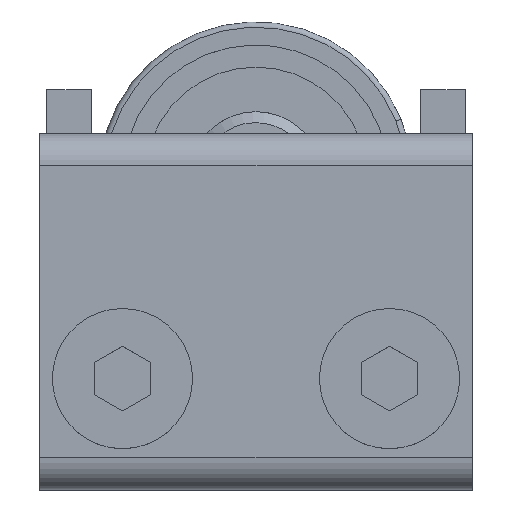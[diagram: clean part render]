
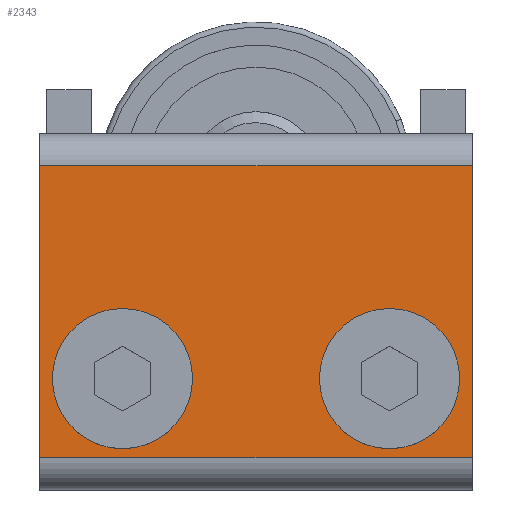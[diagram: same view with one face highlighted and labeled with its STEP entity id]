
A CAD part, top view. The second image highlights one B-rep face of the part: STEP entity #2343.
In plain terms, the highlighted planar face has unit normal (0, 0, 1) as drawn and (0, 0, -1) by its records, which use the part's own axes.
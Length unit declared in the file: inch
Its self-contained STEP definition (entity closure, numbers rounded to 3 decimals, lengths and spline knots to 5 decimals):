
#2036=DIRECTION('',(0.,-1.,0.));
#2037=VECTOR('',#2036,0.82);
#2038=CARTESIAN_POINT('',(-0.6075,0.41,-0.18));
#2039=LINE('',#2038,#2037);
#2062=DIRECTION('',(0.,-1.,0.));
#2063=VECTOR('',#2062,0.82);
#2064=CARTESIAN_POINT('',(0.6075,0.41,-0.18));
#2065=LINE('',#2064,#2063);
#2066=CARTESIAN_POINT('',(0.375,-0.188,-0.18));
#2067=DIRECTION('',(0.,0.,1.));
#2068=DIRECTION('',(1.,0.,0.));
#2069=AXIS2_PLACEMENT_3D('',#2066,#2067,#2068);
#2071=CARTESIAN_POINT('',(0.375,-0.188,-0.18));
#2072=DIRECTION('',(0.,0.,1.));
#2073=DIRECTION('',(-1.,0.,0.));
#2074=AXIS2_PLACEMENT_3D('',#2071,#2072,#2073);
#2076=CARTESIAN_POINT('',(-0.375,-0.188,-0.18));
#2077=DIRECTION('',(0.,0.,1.));
#2078=DIRECTION('',(1.,0.,0.));
#2079=AXIS2_PLACEMENT_3D('',#2076,#2077,#2078);
#2081=CARTESIAN_POINT('',(-0.375,-0.188,-0.18));
#2082=DIRECTION('',(0.,0.,1.));
#2083=DIRECTION('',(-1.,0.,0.));
#2084=AXIS2_PLACEMENT_3D('',#2081,#2082,#2083);
#2090=DIRECTION('',(-1.,0.,0.));
#2091=VECTOR('',#2090,1.215);
#2092=CARTESIAN_POINT('',(0.6075,0.41,-0.18));
#2093=LINE('',#2092,#2091);
#2098=DIRECTION('',(1.,0.,0.));
#2099=VECTOR('',#2098,1.215);
#2100=CARTESIAN_POINT('',(-0.6075,-0.41,-0.18));
#2101=LINE('',#2100,#2099);
#2178=CARTESIAN_POINT('',(0.6075,0.41,-0.18));
#2180=VERTEX_POINT('',#2178);
#2183=CARTESIAN_POINT('',(-0.5,-0.188,-0.18));
#2185=VERTEX_POINT('',#2183);
#2195=CARTESIAN_POINT('',(0.25,-0.188,-0.18));
#2197=VERTEX_POINT('',#2195);
#2202=CARTESIAN_POINT('',(-0.6075,0.41,-0.18));
#2203=VERTEX_POINT('',#2202);
#2214=CARTESIAN_POINT('',(0.6075,-0.41,-0.18));
#2215=VERTEX_POINT('',#2214);
#2220=CARTESIAN_POINT('',(-0.6075,-0.41,-0.18));
#2222=VERTEX_POINT('',#2220);
#2226=CARTESIAN_POINT('',(0.5,-0.188,-0.18));
#2227=VERTEX_POINT('',#2226);
#2230=CARTESIAN_POINT('',(-0.25,-0.188,-0.18));
#2231=VERTEX_POINT('',#2230);
#2318=CARTESIAN_POINT('',(0.6075,0.5,-0.18));
#2319=DIRECTION('',(0.,0.,1.));
#2320=DIRECTION('',(0.,-1.,0.));
#2321=AXIS2_PLACEMENT_3D('',#2318,#2319,#2320);
#2322=PLANE('',#2321);
#2323=ORIENTED_EDGE('',*,*,#2270,.F.);
#2325=ORIENTED_EDGE('',*,*,#2324,.T.);
#2326=ORIENTED_EDGE('',*,*,#2297,.T.);
#2328=ORIENTED_EDGE('',*,*,#2327,.T.);
#2329=EDGE_LOOP('',(#2323,#2325,#2326,#2328));
#2330=FACE_OUTER_BOUND('',#2329,.F.);
#2332=ORIENTED_EDGE('',*,*,#2331,.F.);
#2334=ORIENTED_EDGE('',*,*,#2333,.F.);
#2335=EDGE_LOOP('',(#2332,#2334));
#2336=FACE_BOUND('',#2335,.F.);
#2338=ORIENTED_EDGE('',*,*,#2337,.F.);
#2340=ORIENTED_EDGE('',*,*,#2339,.F.);
#2341=EDGE_LOOP('',(#2338,#2340));
#2342=FACE_BOUND('',#2341,.F.);
#2070=CIRCLE('',#2069,0.125);
#2075=CIRCLE('',#2074,0.125);
#2080=CIRCLE('',#2079,0.125);
#2085=CIRCLE('',#2084,0.125);
#2270=EDGE_CURVE('',#2180,#2215,#2065,.T.);
#2297=EDGE_CURVE('',#2203,#2222,#2039,.T.);
#2324=EDGE_CURVE('',#2180,#2203,#2093,.T.);
#2327=EDGE_CURVE('',#2222,#2215,#2101,.T.);
#2331=EDGE_CURVE('',#2227,#2197,#2070,.T.);
#2333=EDGE_CURVE('',#2197,#2227,#2075,.T.);
#2337=EDGE_CURVE('',#2231,#2185,#2080,.T.);
#2339=EDGE_CURVE('',#2185,#2231,#2085,.T.);
#2343=ADVANCED_FACE('',(#2330,#2336,#2342),#2322,.F.);
